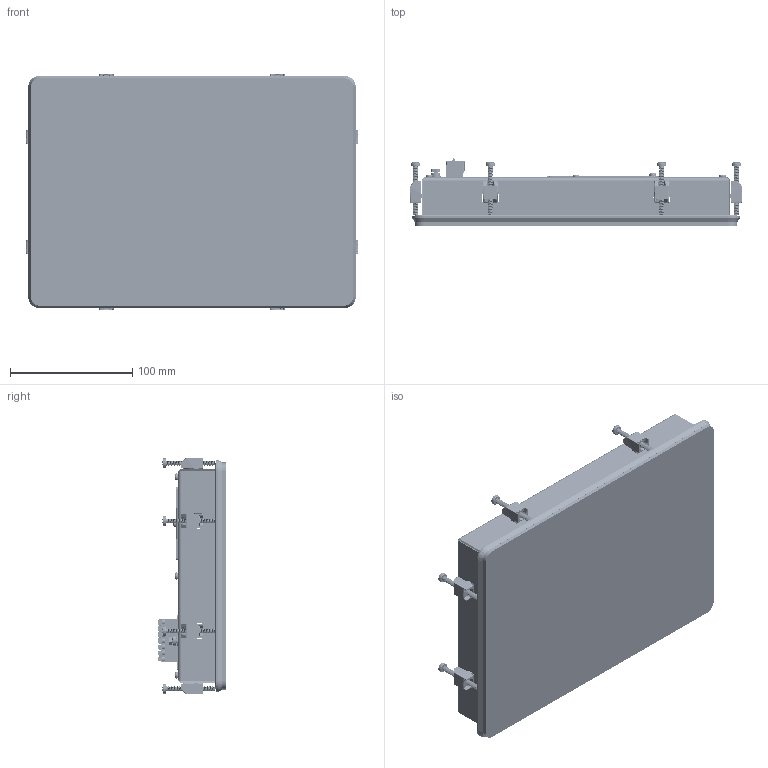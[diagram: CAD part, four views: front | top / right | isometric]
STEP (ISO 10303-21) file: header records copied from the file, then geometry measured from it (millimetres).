
FILE_DESCRIPTION(/* description */ (''),/* implementation_level */ '2;1');
FILE_NAME(/* name */ 'TC-WP615_20260617.stp',/* time_stamp */ '2026-06-17T10:18:52+02:00',/* author */ ('ut3'),/* organization */ ('NYSS'),/* preprocessor_version */ 'ST-DEVELOPER v20.1',/* originating_system */ 'Autodesk Inventor 2026',/* authorisation */ '');
FILE_SCHEMA (('AUTOMOTIVE_DESIGN { 1 0 10303 214 3 1 1 }'));
Products named in the file (159): TD615-WP-PC_ASM; 1300.20.578_V2; 1300.20.578_V2_1; FHL-M3-8; 1300.20.578_v1_Guarnizione; HN101I02-CTP_V2; 1600_00_049; 1600_00_156; 1300.20.577_V3; 1300_20_577_v2; M3_FTR-67; M4_FTTC_C-128; DiscoMasc-10; M4_FTTC_C; 1600_00_165; 1600_00_166; 1600_00_167; M3_FTR_L; 1300_20_369_V2; ISO_7045_-_M3_X_10_-_4_8_-_Z; 1900_10_313_V1; GUARNIZIONE; BLOCCHETTO_FISSAGGIO_ASM; 1300_20_304_REV2; DADO_M4; VITE_M4X40; 0; 0_1; 0_2; 0_3; 0_4; 0_5; •WÜX2\20AC2022\X0\iƒ³6.
3 SIZE CODE D; •WÜX2\20AC\X0\SIZE CODE D-001; •WÜX2\20AC\X0\SIZE CODE D-002; •WÜX2\20AC\X0\SIZE CODE D-003; ASSEMBLY; Fillet1; Fillet2; body2 ...
Assembly tree (264 placements, depth 4):
  TD615-WP-PC_ASM
    1300.20.578_V2
      1300.20.578_V2_1
      FHL-M3-8  x16
      1300.20.578_v1_Guarnizione
    HN101I02-CTP_V2
    1600_00_049  x8
    1600_00_156  x8
    1600_00_059  x25
    1300.20.577_V3
      1300_20_577_v2
      M3_FTR-67
      M4_FTTC_C-128
      DiscoMasc-10  x3
    M4_FTTC_C
    1600_00_165
    1600_00_166
    1600_00_167
    M3_FTR_L
    1300_20_369_V2
    ISO_7045_-_M3_X_10_-_4_8_-_Z
    1900_10_313_V1
    GUARNIZIONE
    BLOCCHETTO_FISSAGGIO_ASM  x8
      1300_20_304_REV2
      DADO_M4
      VITE_M4X40
    0
      0_1
        0_2
      0_3
      0_4
      0_5
      ASSEMBLY  x3
        Fillet1
        Fillet2
        body2
      ASSEMBLY_22  x9
        Fillet1_2
        Fillet2_2
        body2_2
      •WÜX2\20AC2022\X0\iƒ³6.
3 SIZE CODE D
        •WÜX2\20AC\X0\SIZE CODE D-001
        •WÜX2\20AC\X0\SIZE CODE D-003  x2
        •WÜX2\20AC\X0\SIZE CODE D-002
      ASSEMBLY_1  x2
        Body
        FilletPin1
        FilletPin2
      ASSEMBLY_2
        Body_1
        FilletPin1_1
        FilletPin2_1
      0_6
      0_7
      ASSEMBLY_3  x2
        Body_2
        PinsArrayL
        FilletPinR
      ASSEMBLY_4
Bounding box: 271.5 x 55.65 x 193.5 mm (x, y, z)
Volume: 582947.8 mm3; surface area: 542865.5 mm2
Topology: 961 solids, 1053 shells, 14734 faces, 37675 edges, 24906 vertices
Faces by surface type: plane 7877, cylinder 4982, bspline 1174, sphere 306, cone 240, torus 155
Full cylindrical faces by diameter (mm): 0 x1, 0.156 x1, 0.163 x2, 0.254 x7, 0.345 x1, 0.406 x140, 0.5 x3, 0.508 x12, 0.6 x16, 0.65 x2, 0.66 x33, 0.75 x2, 0.762 x58, 0.8 x4, 0.85 x2, 0.875 x1, 0.889 x25, 1.016 x28, 1.118 x79, 1.2 x4, 1.416 x2, 1.6 x7, 1.651 x12, 2.032 x36, 2.432 x2, 2.459 x24, 2.5 x24, 2.693 x2, 2.729 x1, 2.8 x4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
Entity records: 353947 total; most frequent: CARTESIAN_POINT 115422, DIRECTION 47712, ORIENTED_EDGE 45839, EDGE_CURVE 22997, LINE 15918, VECTOR 15918, AXIS2_PLACEMENT_3D 15897, VERTEX_POINT 15213
